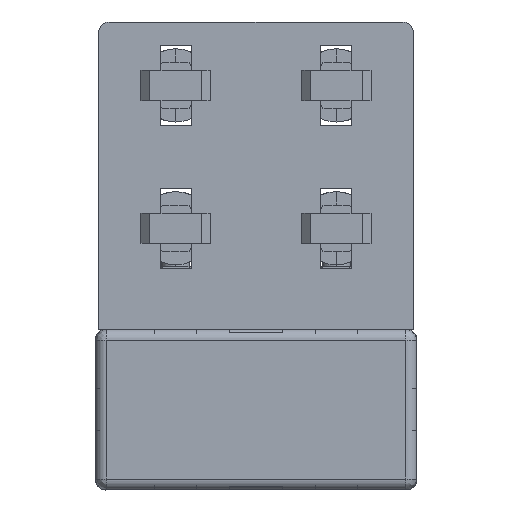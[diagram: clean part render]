
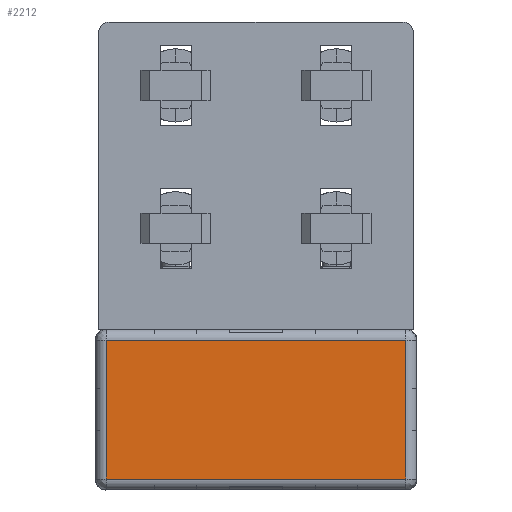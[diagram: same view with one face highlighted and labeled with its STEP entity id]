
A CAD part, left-side view. The second image highlights one B-rep face of the part: STEP entity #2212.
In plain terms, the highlighted planar face has unit normal (-1, 0, 0).
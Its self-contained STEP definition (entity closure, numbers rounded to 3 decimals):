
#173 = CARTESIAN_POINT ( 'NONE',  ( -356.942, 64.009, 0. ) ) ;
#195 = EDGE_LOOP ( 'NONE', ( #30998, #1543, #11312, #13018 ) ) ;
#655 = CARTESIAN_POINT ( 'NONE',  ( -356.942, 64.009, -19.423 ) ) ;
#1534 = LINE ( 'NONE', #11989, #27456 ) ;
#1543 = ORIENTED_EDGE ( 'NONE', *, *, #14363, .F. ) ;
#2212 = ADVANCED_FACE ( 'NONE', ( #33617 ), #28448, .F. ) ;
#2390 = AXIS2_PLACEMENT_3D ( 'NONE', #20749, #7533, #20916 ) ;
#3964 = VECTOR ( 'NONE', #19333, 1000. ) ;
#4007 = EDGE_CURVE ( 'NONE', #7434, #17127, #21896, .T. ) ;
#5313 = DIRECTION ( 'NONE',  ( 0., 0., 1. ) ) ;
#5709 = CARTESIAN_POINT ( 'NONE',  ( -356.942, 64.009, 19.423 ) ) ;
#7434 = VERTEX_POINT ( 'NONE', #30889 ) ;
#7533 = DIRECTION ( 'NONE',  ( 1., 0., 0. ) ) ;
#7557 = EDGE_CURVE ( 'NONE', #23019, #26972, #18524, .T. ) ;
#11312 = ORIENTED_EDGE ( 'NONE', *, *, #4007, .F. ) ;
#11989 = CARTESIAN_POINT ( 'NONE',  ( -356.942, 22.086, 19.423 ) ) ;
#12147 = VECTOR ( 'NONE', #5313, 1000. ) ;
#12872 = CARTESIAN_POINT ( 'NONE',  ( -356.942, 22.086, -19.423 ) ) ;
#13018 = ORIENTED_EDGE ( 'NONE', *, *, #21624, .F. ) ;
#14363 = EDGE_CURVE ( 'NONE', #17127, #23019, #18018, .T. ) ;
#15522 = CARTESIAN_POINT ( 'NONE',  ( -356.942, -19.836, -19.423 ) ) ;
#16596 = VECTOR ( 'NONE', #28639, 1000. ) ;
#17127 = VERTEX_POINT ( 'NONE', #15522 ) ;
#18018 = LINE ( 'NONE', #12872, #16596 ) ;
#18524 = LINE ( 'NONE', #173, #12147 ) ;
#19333 = DIRECTION ( 'NONE',  ( 0., 0., -1. ) ) ;
#20749 = CARTESIAN_POINT ( 'NONE',  ( -356.942, 22.086, 0. ) ) ;
#20916 = DIRECTION ( 'NONE',  ( 0., 0., -1. ) ) ;
#21624 = EDGE_CURVE ( 'NONE', #26972, #7434, #1534, .T. ) ;
#21896 = LINE ( 'NONE', #32354, #3964 ) ;
#23019 = VERTEX_POINT ( 'NONE', #655 ) ;
#26972 = VERTEX_POINT ( 'NONE', #5709 ) ;
#27456 = VECTOR ( 'NONE', #32925, 1000. ) ;
#28448 = PLANE ( 'NONE',  #2390 ) ;
#28639 = DIRECTION ( 'NONE',  ( 0., 1., 0. ) ) ;
#30889 = CARTESIAN_POINT ( 'NONE',  ( -356.942, -19.836, 19.423 ) ) ;
#30998 = ORIENTED_EDGE ( 'NONE', *, *, #7557, .F. ) ;
#32354 = CARTESIAN_POINT ( 'NONE',  ( -356.942, -19.836, 0. ) ) ;
#32925 = DIRECTION ( 'NONE',  ( 0., -1., 0. ) ) ;
#33617 = FACE_OUTER_BOUND ( 'NONE', #195, .T. ) ;
